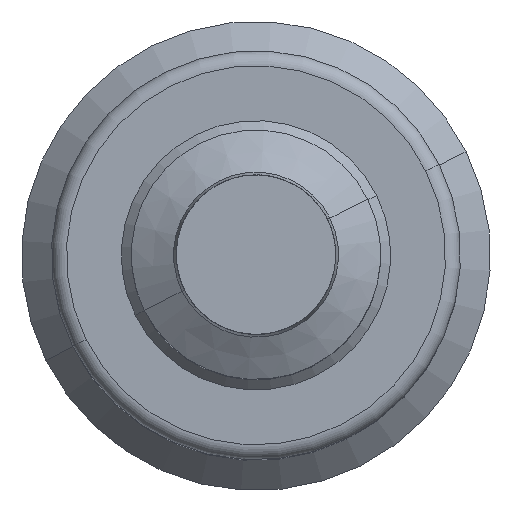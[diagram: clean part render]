
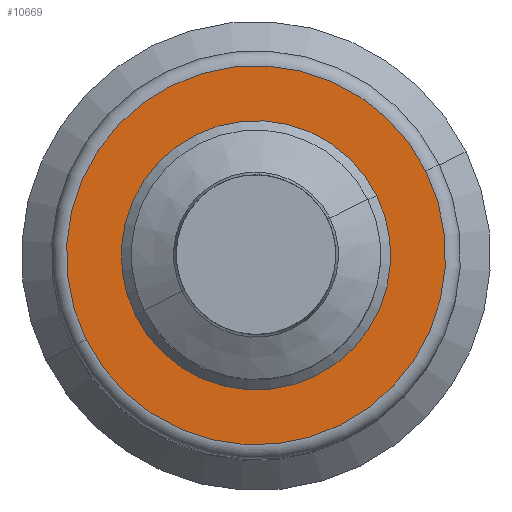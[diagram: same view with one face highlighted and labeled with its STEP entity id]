
A CAD part, top view. The second image highlights one B-rep face of the part: STEP entity #10669.
In plain terms, the highlighted planar face has unit normal (0, 0, 1).
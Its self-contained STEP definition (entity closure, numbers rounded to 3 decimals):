
#73 = CIRCLE ( 'NONE', #3374, 27. ) ;
#521 = CARTESIAN_POINT ( 'NONE',  ( -34.042, -16.886, 130. ) ) ;
#536 = CARTESIAN_POINT ( 'NONE',  ( 34.042, 16.886, 130. ) ) ;
#559 = CARTESIAN_POINT ( 'NONE',  ( 24.188, 11.998, 130. ) ) ;
#590 = CARTESIAN_POINT ( 'NONE',  ( -24.188, -11.998, 130. ) ) ;
#1266 = CARTESIAN_POINT ( 'NONE',  ( 0., 0., 130. ) ) ;
#1267 = DIRECTION ( 'NONE',  ( 0., 0., -1. ) ) ;
#1268 = DIRECTION ( 'NONE',  ( -0.896, -0.444, 0. ) ) ;
#1345 = CARTESIAN_POINT ( 'NONE',  ( 0., 0., 130. ) ) ;
#1346 = DIRECTION ( 'NONE',  ( 0., 0., -1. ) ) ;
#1347 = DIRECTION ( 'NONE',  ( -0.896, -0.444, 0. ) ) ;
#1374 = CARTESIAN_POINT ( 'NONE',  ( 0., 0., 130. ) ) ;
#1375 = DIRECTION ( 'NONE',  ( 0., 0., -1. ) ) ;
#1376 = DIRECTION ( 'NONE',  ( -0.896, -0.444, 0. ) ) ;
#3344 = AXIS2_PLACEMENT_3D ( 'NONE', #1345, #1346, #1347 ) ;
#3374 = AXIS2_PLACEMENT_3D ( 'NONE', #6495, #6496, #6497 ) ;
#3390 = AXIS2_PLACEMENT_3D ( 'NONE', #1374, #1375, #1376 ) ;
#3704 = EDGE_LOOP ( 'NONE', ( #10023, #10024 ) ) ;
#3725 = EDGE_LOOP ( 'NONE', ( #10021, #10022 ) ) ;
#5053 = AXIS2_PLACEMENT_3D ( 'NONE', #1266, #1267, #1268 ) ;
#6495 = CARTESIAN_POINT ( 'NONE',  ( 0., 0., 130. ) ) ;
#6496 = DIRECTION ( 'NONE',  ( 0., 0., -1. ) ) ;
#6497 = DIRECTION ( 'NONE',  ( -0.896, -0.444, 0. ) ) ;
#7883 = EDGE_CURVE ( 'NONE', #9239, #9186, #9520, .T. ) ;
#7908 = EDGE_CURVE ( 'NONE', #9152, #9127, #9553, .T. ) ;
#7914 = EDGE_CURVE ( 'NONE', #9127, #9152, #9558, .T. ) ;
#8121 = EDGE_CURVE ( 'NONE', #9186, #9239, #73, .T. ) ;
#9127 = VERTEX_POINT ( 'NONE', #521 ) ;
#9152 = VERTEX_POINT ( 'NONE', #536 ) ;
#9186 = VERTEX_POINT ( 'NONE', #559 ) ;
#9239 = VERTEX_POINT ( 'NONE', #590 ) ;
#9520 = CIRCLE ( 'NONE', #5053, 27. ) ;
#9553 = CIRCLE ( 'NONE', #3344, 38. ) ;
#9558 = CIRCLE ( 'NONE', #3390, 38. ) ;
#10021 = ORIENTED_EDGE ( 'NONE', *, *, #7883, .T. ) ;
#10022 = ORIENTED_EDGE ( 'NONE', *, *, #8121, .T. ) ;
#10023 = ORIENTED_EDGE ( 'NONE', *, *, #7914, .F. ) ;
#10024 = ORIENTED_EDGE ( 'NONE', *, *, #7908, .F. ) ;
#10669 = ADVANCED_FACE ( 'NONE', ( #10697, #10698 ), #10871, .T. ) ;
#10697 = FACE_BOUND ( 'NONE', #3725, .T. ) ;
#10698 = FACE_OUTER_BOUND ( 'NONE', #3704, .T. ) ;
#10871 = PLANE ( 'NONE',  #11747 ) ;
#10872 = CARTESIAN_POINT ( 'NONE',  ( -24.188, -11.998, 130. ) ) ;
#10873 = DIRECTION ( 'NONE',  ( 0., 0., 1. ) ) ;
#10874 = DIRECTION ( 'NONE',  ( 0.896, 0.444, 0. ) ) ;
#11747 = AXIS2_PLACEMENT_3D ( 'NONE', #10872, #10873, #10874 ) ;
